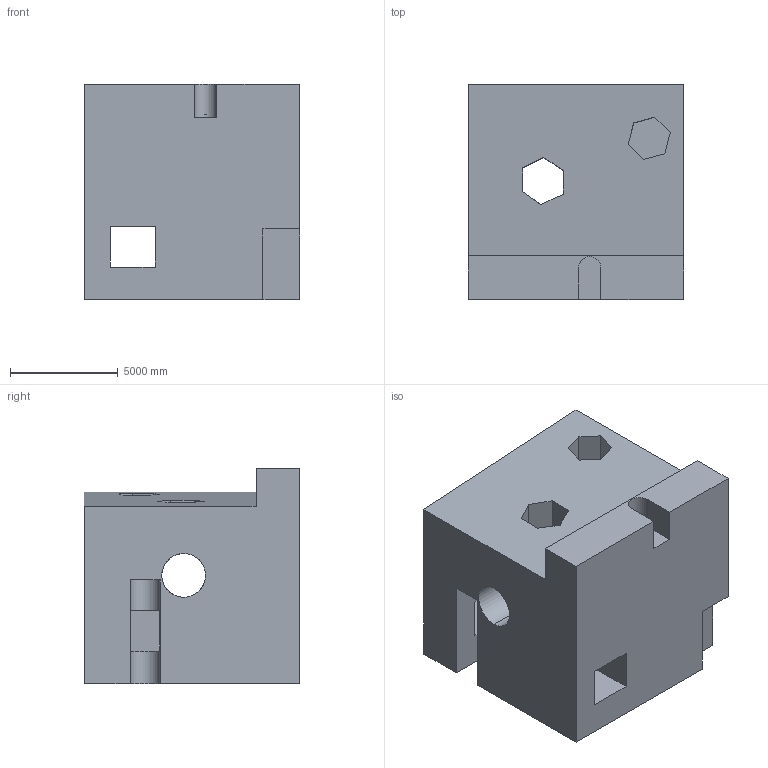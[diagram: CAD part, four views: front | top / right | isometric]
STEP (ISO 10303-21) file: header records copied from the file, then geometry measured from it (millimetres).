
FILE_DESCRIPTION (( 'STEP AP203' ), '1' );
FILE_NAME ('1864.STEP', '2022-08-26T13:30:38', ( 'user' ), ( '' ), 'SwSTEP 2.0', 'SolidWorks 2021', '' );
FILE_SCHEMA (( 'CONFIG_CONTROL_DESIGN' ));
Length unit declared in the file: centimetre
Products named in the file (1): 1864
Bounding box: 10000 x 10000 x 10000 mm (x, y, z)
Volume: 737875773001 mm3; surface area: 816521714.5 mm2
Topology: 1 solids, 1 shells, 50 faces, 156 edges, 104 vertices
Faces by surface type: plane 42, cylinder 8
Entity records: 1823 total; most frequent: CARTESIAN_POINT 329, ORIENTED_EDGE 312, DIRECTION 274, EDGE_CURVE 156, LINE 128, VECTOR 128, VERTEX_POINT 104, AXIS2_PLACEMENT_3D 73
